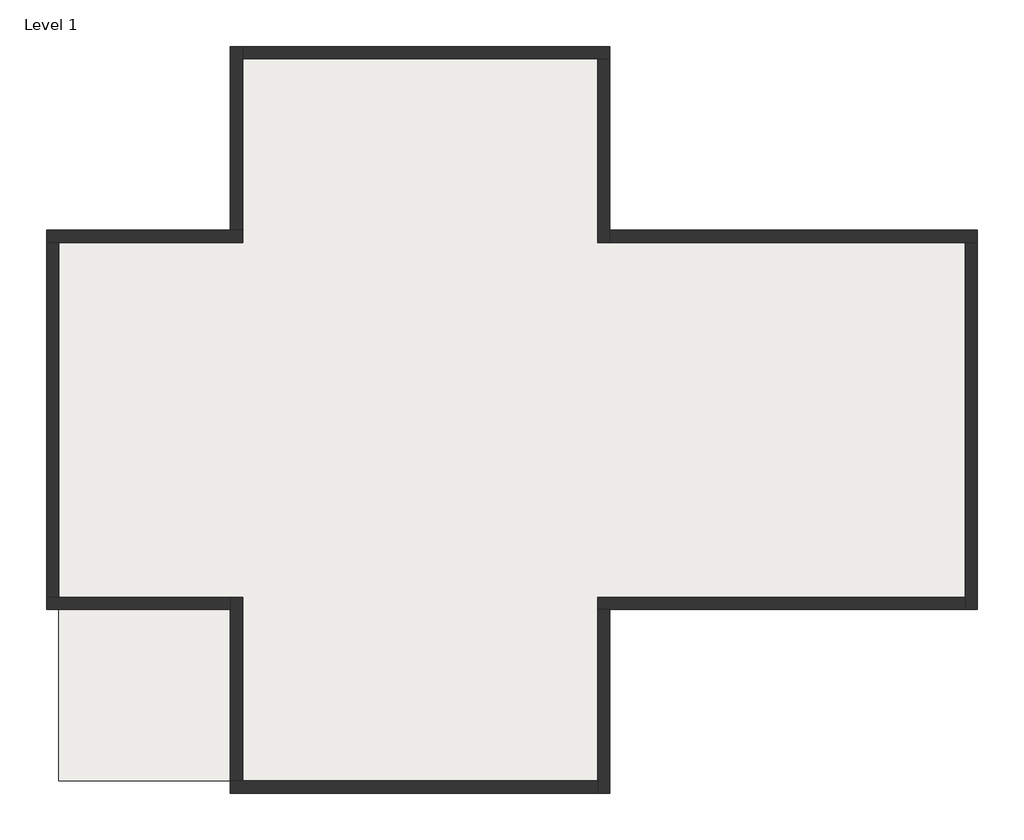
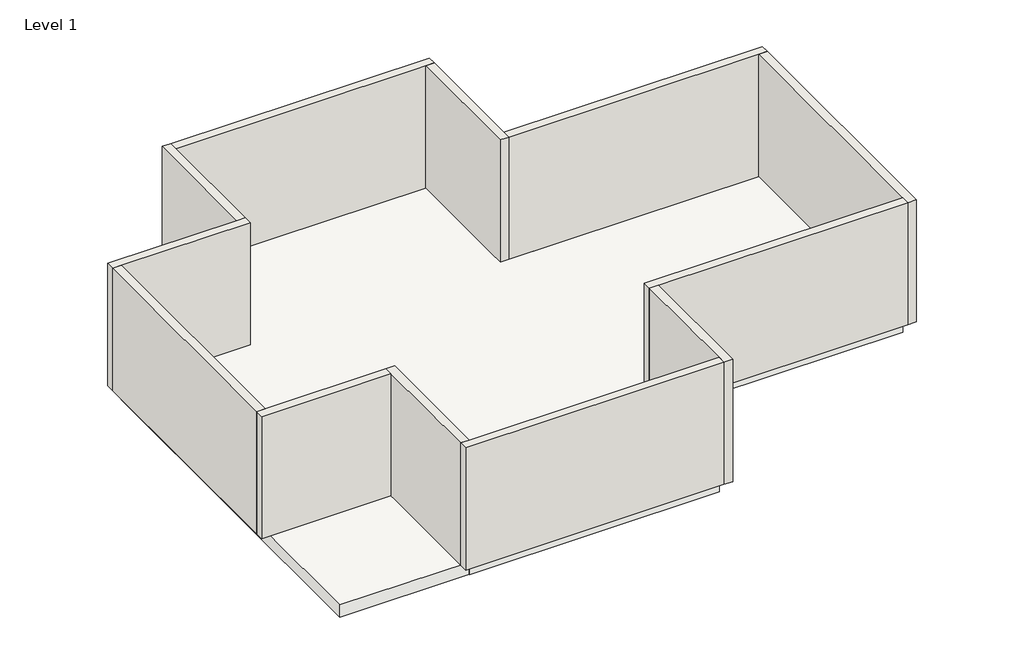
# One storey: 12 walls, 1 slab.
"""IFC4 building model written with IfcOpenShell, lengths in millimetres."""

from ifc_helpers import new_model, si_unit, frame, origin, origin_with_axes, place, context, project, spatial, polyline, outline, extrude, faceted_brep, element, save

model = new_model("IFC4")

# Units and contexts
model_context = context("Model", 3, world=origin())
ifc_project = project(units=[si_unit("LENGTHUNIT", "METRE", prefix="MILLI")], contexts=[model_context])

# Site, building, storey
site = spatial("IfcSite", under=ifc_project)
building = spatial("IfcBuilding", under=site)
storey = spatial("IfcBuildingStorey", under=building, Name="Level 1", Elevation=0.0)

# Slab
placement = place(None, origin())
element("IfcSlab", 1, ObjectType="Generic - 12\"", at=placement, inside=storey, context=model_context, shape_type="SweptSolid", body=[
    extrude(outline(polyline([(-1240.9497318, 6748.8807659), (-1240.9497318, 3700.8807659), (4855.0502682, 3700.8807659), (4855.0502682, -2191.9192341), (-1240.9497318, -2191.9192341), (-1240.9497318, -5239.9192341), (-7133.7497318, -5239.9192341), (-7133.7497318, -5233.5692341), (-10181.7497318, -5233.5692341), (-10181.7497318, 3700.8807659), (-7133.7497318, 3700.8807659), (-7133.7497318, 6748.8807659), (-1240.9497318, 6748.8807659)])), frame((0.0, 0.0, -304.8), z_axis=(0.0, 0.0, 1.0), x_axis=(1.0, 0.0, 0.0)), (0.0, 0.0, 1.0), 304.8),
])

# Walls
element("IfcWall", 2, ObjectType="Generic - 8\"", at=placement, inside=storey, context=model_context, shape_type="Brep", body=[
    faceted_brep([(-10384.9497318, 3700.8807659, 0.0), (-10181.7497318, 3700.8807659, 0.0), (-7133.7497318, 3700.8807659, 0.0), (-7133.7497318, 3700.8807659, 3048.0), (-10181.7497318, 3700.8807659, 3048.0), (-10384.9497318, 3700.8807659, 3048.0), (-10384.9497318, 3904.0807659, 0.0), (-10384.9497318, 3904.0807659, 3048.0), (-7336.9497318, 3904.0807659, 3048.0), (-7133.7497318, 3904.0807659, 3048.0), (-7133.7497318, 3904.0807659, 0.0), (-7336.9497318, 3904.0807659, 0.0)], [[[0, 1, 2, 3, 4, 5]], [[6, 7, 8, 9, 10, 11]], [[2, 1, 0, 6, 11, 10]], [[5, 4, 3, 9, 8, 7]], [[3, 2, 10, 9]], [[0, 5, 7, 6]]]),
])
element("IfcWall", 3, ObjectType="Generic - 8\"", at=placement, inside=storey, context=model_context, shape_type="Brep", body=[
    faceted_brep([(-7133.7497318, 3904.0807659, 0.0), (-7133.7497318, 6748.8807659, 0.0), (-7133.7497318, 6952.0807659, 0.0), (-7133.7497318, 6952.0807659, 3048.0), (-7133.7497318, 6748.8807659, 3048.0), (-7133.7497318, 3904.0807659, 3048.0), (-7336.9497318, 3904.0807659, 0.0), (-7336.9497318, 3904.0807659, 3048.0), (-7336.9497318, 6952.0807659, 3048.0), (-7336.9497318, 6952.0807659, 0.0)], [[[0, 1, 2, 3, 4, 5]], [[6, 7, 8, 9]], [[2, 1, 0, 6, 9]], [[5, 4, 3, 8, 7]], [[3, 2, 9, 8]], [[0, 5, 7, 6]]]),
])
element("IfcWall", 4, ObjectType="Generic - 8\"", at=placement, inside=storey, context=model_context, shape_type="Brep", body=[
    faceted_brep([(-7133.7497318, 6748.8807659, 0.0), (-1240.9497318, 6748.8807659, 0.0), (-1037.7497318, 6748.8807659, 0.0), (-1037.7497318, 6748.8807659, 3048.0), (-1240.9497318, 6748.8807659, 3048.0), (-7133.7497318, 6748.8807659, 3048.0), (-7133.7497318, 6952.0807659, 0.0), (-7133.7497318, 6952.0807659, 3048.0), (-1037.7497318, 6952.0807659, 3048.0), (-1037.7497318, 6952.0807659, 0.0)], [[[0, 1, 2, 3, 4, 5]], [[6, 7, 8, 9]], [[2, 1, 0, 6, 9]], [[5, 4, 3, 8, 7]], [[3, 2, 9, 8]], [[0, 5, 7, 6]]]),
])
element("IfcWall", 5, ObjectType="Generic - 8\"", at=placement, inside=storey, context=model_context, shape_type="Brep", body=[
    faceted_brep([(-1240.9497318, 6748.8807659, 0.0), (-1240.9497318, 3700.8807659, 0.0), (-1240.9497318, 3700.8807659, 3048.0), (-1240.9497318, 6748.8807659, 3048.0), (-1037.7497318, 6748.8807659, 0.0), (-1037.7497318, 6748.8807659, 3048.0), (-1037.7497318, 3904.0807659, 3048.0), (-1037.7497318, 3700.8807659, 3048.0), (-1037.7497318, 3700.8807659, 0.0), (-1037.7497318, 3904.0807659, 0.0)], [[[0, 1, 2, 3]], [[4, 5, 6, 7, 8, 9]], [[1, 0, 4, 9, 8]], [[3, 2, 7, 6, 5]], [[2, 1, 8, 7]], [[0, 3, 5, 4]]]),
])
element("IfcWall", 6, ObjectType="Generic - 8\"", at=placement, inside=storey, context=model_context, shape_type="Brep", body=[
    faceted_brep([(-1037.7497318, 3700.8807659, 0.0), (4855.0502682, 3700.8807659, 0.0), (5058.2502682, 3700.8807659, 0.0), (5058.2502682, 3700.8807659, 3048.0), (4855.0502682, 3700.8807659, 3048.0), (-1037.7497318, 3700.8807659, 3048.0), (-1037.7497318, 3904.0807659, 0.0), (-1037.7497318, 3904.0807659, 3048.0), (5058.2502682, 3904.0807659, 3048.0), (5058.2502682, 3904.0807659, 0.0)], [[[0, 1, 2, 3, 4, 5]], [[6, 7, 8, 9]], [[2, 1, 0, 6, 9]], [[5, 4, 3, 8, 7]], [[3, 2, 9, 8]], [[0, 5, 7, 6]]]),
])
element("IfcWall", 7, ObjectType="Generic - 8\"", at=placement, inside=storey, context=model_context, shape_type="Brep", body=[
    faceted_brep([(4855.0502682, 3700.8807659, 0.0), (4855.0502682, -2191.9192341, 0.0), (4855.0502682, -2395.1192341, 0.0), (4855.0502682, -2395.1192341, 3048.0), (4855.0502682, -2191.9192341, 3048.0), (4855.0502682, 3700.8807659, 3048.0), (5058.2502682, 3700.8807659, 0.0), (5058.2502682, 3700.8807659, 3048.0), (5058.2502682, -2395.1192341, 3048.0), (5058.2502682, -2395.1192341, 0.0)], [[[0, 1, 2, 3, 4, 5]], [[6, 7, 8, 9]], [[2, 1, 0, 6, 9]], [[5, 4, 3, 8, 7]], [[3, 2, 9, 8]], [[0, 5, 7, 6]]]),
])
element("IfcWall", 8, ObjectType="Generic - 8\"", at=placement, inside=storey, context=model_context, shape_type="Brep", body=[
    faceted_brep([(4855.0502682, -2191.9192341, 0.0), (-1240.9497318, -2191.9192341, 0.0), (-1240.9497318, -2191.9192341, 3048.0), (4855.0502682, -2191.9192341, 3048.0), (4855.0502682, -2395.1192341, 0.0), (4855.0502682, -2395.1192341, 3048.0), (-1037.7497318, -2395.1192341, 3048.0), (-1240.9497318, -2395.1192341, 3048.0), (-1240.9497318, -2395.1192341, 0.0), (-1037.7497318, -2395.1192341, 0.0)], [[[0, 1, 2, 3]], [[4, 5, 6, 7, 8, 9]], [[1, 0, 4, 9, 8]], [[3, 2, 7, 6, 5]], [[2, 1, 8, 7]], [[0, 3, 5, 4]]]),
])
element("IfcWall", 9, ObjectType="Generic - 8\"", at=placement, inside=storey, context=model_context, shape_type="Brep", body=[
    faceted_brep([(-1240.9497318, -2395.1192341, 0.0), (-1240.9497318, -5239.9192341, 0.0), (-1240.9497318, -5443.1192341, 0.0), (-1240.9497318, -5443.1192341, 3048.0), (-1240.9497318, -5239.9192341, 3048.0), (-1240.9497318, -2395.1192341, 3048.0), (-1037.7497318, -2395.1192341, 0.0), (-1037.7497318, -2395.1192341, 3048.0), (-1037.7497318, -5443.1192341, 3048.0), (-1037.7497318, -5443.1192341, 0.0)], [[[0, 1, 2, 3, 4, 5]], [[6, 7, 8, 9]], [[2, 1, 0, 6, 9]], [[5, 4, 3, 8, 7]], [[3, 2, 9, 8]], [[0, 5, 7, 6]]]),
])
element("IfcWall", 10, ObjectType="Generic - 8\"", at=placement, inside=storey, context=model_context, shape_type="Brep", body=[
    faceted_brep([(-1240.9497318, -5239.9192341, 0.0), (-7133.7497318, -5239.9192341, 0.0), (-7336.9497318, -5239.9192341, 0.0), (-7336.9497318, -5239.9192341, 3048.0), (-7133.7497318, -5239.9192341, 3048.0), (-1240.9497318, -5239.9192341, 3048.0), (-1240.9497318, -5443.1192341, 0.0), (-1240.9497318, -5443.1192341, 3048.0), (-7336.9497318, -5443.1192341, 3048.0), (-7336.9497318, -5443.1192341, 0.0)], [[[0, 1, 2, 3, 4, 5]], [[6, 7, 8, 9]], [[2, 1, 0, 6, 9]], [[5, 4, 3, 8, 7]], [[3, 2, 9, 8]], [[0, 5, 7, 6]]]),
])
element("IfcWall", 11, ObjectType="Generic - 8\"", at=placement, inside=storey, context=model_context, shape_type="Brep", body=[
    faceted_brep([(-7133.7497318, -5239.9192341, 0.0), (-7133.7497318, -2191.9192341, 0.0), (-7133.7497318, -2191.9192341, 3048.0), (-7133.7497318, -5239.9192341, 3048.0), (-7336.9497318, -5239.9192341, 0.0), (-7336.9497318, -5239.9192341, 3048.0), (-7336.9497318, -2395.1192341, 3048.0), (-7336.9497318, -2191.9192341, 3048.0), (-7336.9497318, -2191.9192341, 0.0), (-7336.9497318, -2395.1192341, 0.0)], [[[0, 1, 2, 3]], [[4, 5, 6, 7, 8, 9]], [[1, 0, 4, 9, 8]], [[3, 2, 7, 6, 5]], [[2, 1, 8, 7]], [[0, 3, 5, 4]]]),
])
element("IfcWall", 12, ObjectType="Generic - 8\"", at=placement, inside=storey, context=model_context, shape_type="Brep", body=[
    faceted_brep([(-7336.9497318, -2191.9192341, 0.0), (-10181.7497318, -2191.9192341, 0.0), (-10384.9497318, -2191.9192341, 0.0), (-10384.9497318, -2191.9192341, 3048.0), (-10181.7497318, -2191.9192341, 3048.0), (-7336.9497318, -2191.9192341, 3048.0), (-7336.9497318, -2395.1192341, 0.0), (-7336.9497318, -2395.1192341, 3048.0), (-10384.9497318, -2395.1192341, 3048.0), (-10384.9497318, -2395.1192341, 0.0)], [[[0, 1, 2, 3, 4, 5]], [[6, 7, 8, 9]], [[2, 1, 0, 6, 9]], [[5, 4, 3, 8, 7]], [[3, 2, 9, 8]], [[0, 5, 7, 6]]]),
])
element("IfcWall", 13, ObjectType="Generic - 8\"", at=placement, inside=storey, context=model_context, shape_type="SweptSolid", body=[
    extrude(outline(polyline([(-10181.7497318, 3700.8807659), (-10181.7497318, -2191.9192341), (-10384.9497318, -2191.9192341), (-10384.9497318, 3700.8807659), (-10181.7497318, 3700.8807659)])), origin_with_axes(), (0.0, 0.0, 1.0), 3048.0),
])

save(model, "model.ifc")
